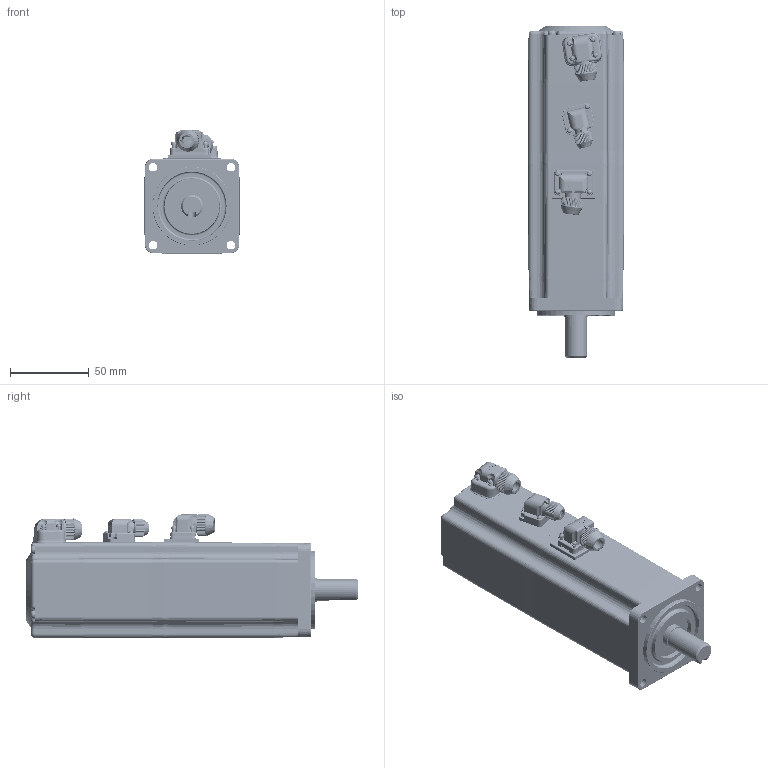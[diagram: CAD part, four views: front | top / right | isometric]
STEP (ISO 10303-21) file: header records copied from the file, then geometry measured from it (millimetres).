
FILE_DESCRIPTION((''),'2;1');
FILE_NAME('60-400-1','2017-05-26T',('Administrator'),(''),'PRO/ENGINEER BY PARAMETRIC TECHNOLOGY CORPORATION, 2010280','PRO/ENGINEER BY PARAMETRIC TECHNOLOGY CORPORATION, 2010280','');
FILE_SCHEMA(('CONFIG_CONTROL_DESIGN'));
Products named in the file (1): 60-400-1
Bounding box: 61.2 x 210.94 x 79.29 mm (x, y, z)
Volume: 381511.7 mm3; surface area: 106825.3 mm2
Topology: 15 solids, 72 shells, 8988 faces, 22801 edges, 13735 vertices
Faces by surface type: plane 5091, cylinder 1659, bspline 1167, cone 543, torus 188, sphere 182, extrusion 145, revolution 13
Entity records: 335003 total; most frequent: CARTESIAN_POINT 131140, ORIENTED_EDGE 44707, DIRECTION 37560, EDGE_CURVE 22608, VECTOR 14423, LINE 14278, VERTEX_POINT 13734, AXIS2_PLACEMENT_3D 11562
